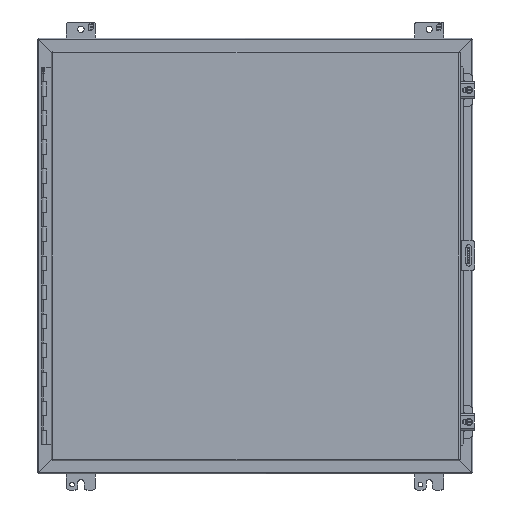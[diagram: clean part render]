
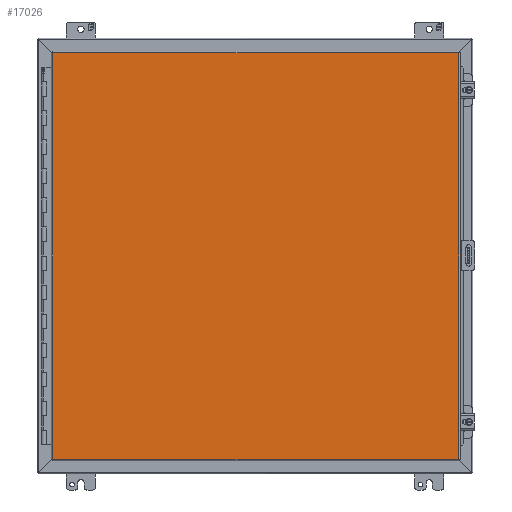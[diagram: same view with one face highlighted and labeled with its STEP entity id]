
A CAD part, front view. The second image highlights one B-rep face of the part: STEP entity #17026.
In plain terms, the highlighted planar face has unit normal (0, -1, 0).
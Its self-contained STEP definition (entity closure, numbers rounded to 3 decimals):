
#1343=LINE('',#25139,#2951);
#1344=LINE('',#25142,#2952);
#1345=LINE('',#25144,#2953);
#1346=LINE('',#25146,#2954);
#2951=VECTOR('',#20473,1000.);
#2952=VECTOR('',#20474,1000.);
#2953=VECTOR('',#20475,1000.);
#2954=VECTOR('',#20476,1000.);
#5841=ORIENTED_EDGE('',*,*,#10125,.T.);
#5842=ORIENTED_EDGE('',*,*,#10126,.T.);
#5843=ORIENTED_EDGE('',*,*,#10127,.T.);
#5844=ORIENTED_EDGE('',*,*,#10128,.T.);
#10125=EDGE_CURVE('',#12370,#12371,#1343,.T.);
#10126=EDGE_CURVE('',#12371,#12372,#1344,.T.);
#10127=EDGE_CURVE('',#12372,#12373,#1345,.T.);
#10128=EDGE_CURVE('',#12373,#12370,#1346,.T.);
#12370=VERTEX_POINT('',#25140);
#12371=VERTEX_POINT('',#25141);
#12372=VERTEX_POINT('',#25143);
#12373=VERTEX_POINT('',#25145);
#14240=EDGE_LOOP('',(#5841,#5842,#5843,#5844));
#15330=FACE_BOUND('',#14240,.T.);
#16306=PLANE('',#18268);
#17026=ADVANCED_FACE('',(#15330),#16306,.T.);
#18268=AXIS2_PLACEMENT_3D('',#25138,#20471,#20472);
#20471=DIRECTION('',(0.,-1.,0.));
#20472=DIRECTION('',(0.,0.,-1.));
#20473=DIRECTION('',(0.,0.,-1.));
#20474=DIRECTION('',(1.,0.,0.));
#20475=DIRECTION('',(0.,0.,1.));
#20476=DIRECTION('',(-1.,0.,0.));
#25138=CARTESIAN_POINT('',(-355.244,0.,-355.46));
#25139=CARTESIAN_POINT('',(-355.244,0.,355.46));
#25140=CARTESIAN_POINT('',(-355.244,0.,355.46));
#25141=CARTESIAN_POINT('',(-355.244,0.,-355.46));
#25142=CARTESIAN_POINT('',(-355.244,0.,-355.46));
#25143=CARTESIAN_POINT('',(355.244,0.,-355.46));
#25144=CARTESIAN_POINT('',(355.244,0.,-355.46));
#25145=CARTESIAN_POINT('',(355.244,0.,355.46));
#25146=CARTESIAN_POINT('',(355.244,0.,355.46));
